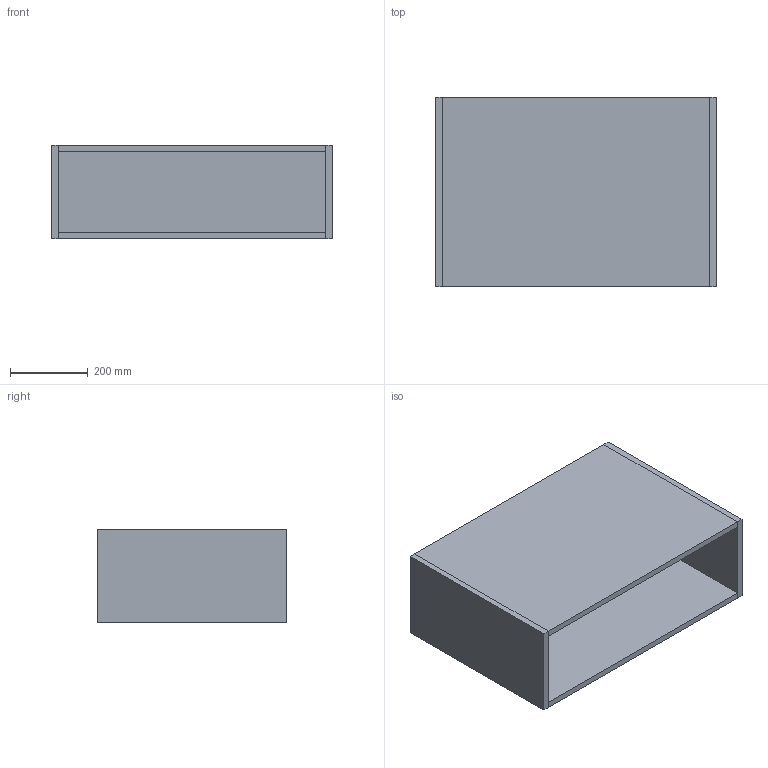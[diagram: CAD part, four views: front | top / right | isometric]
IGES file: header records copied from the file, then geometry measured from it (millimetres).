
Start section: Data from Parasolid IGES Translator 19.0.9, Copyright(c) 2006 Siemens PL M Software. All Rights Reserved.
Global section: file name: noorth-SI-H 24 D 51 W 72_8325.igs; native system: By Siemens PLM Incorporated; preprocessor: XPlus GENERIC/IGES 19.0.9; author: Noname; organization: Noname; date: 20200530.121702; units: metre
Bounding box: 720.01 x 486.06 x 240 mm (x, y, z)
Volume: 14842816.1 mm3; surface area: 2217174.3 mm2
Topology: 5 solids, 5 shells, 30 faces, 60 edges, 40 vertices
Faces by surface type: plane 30
